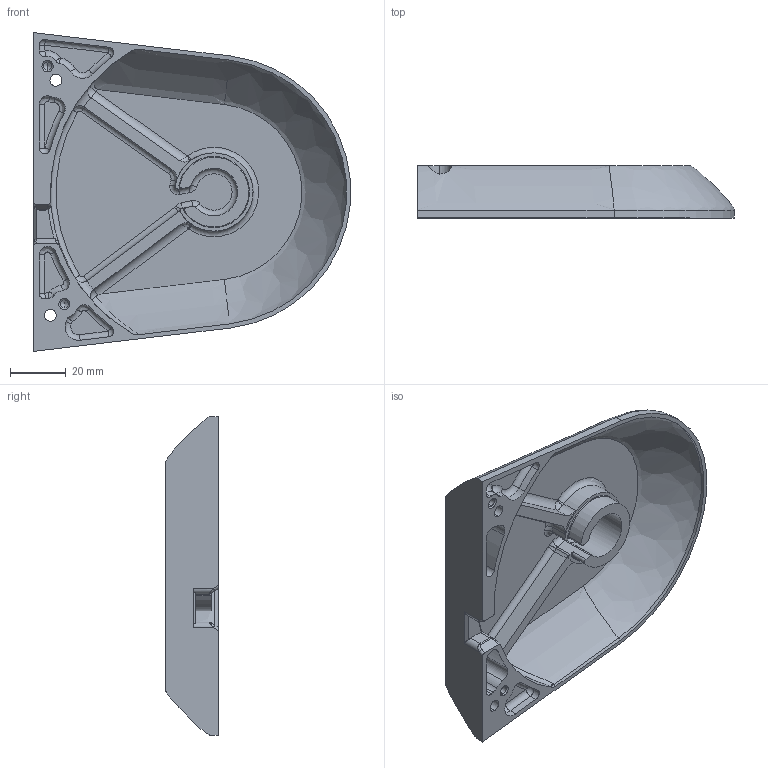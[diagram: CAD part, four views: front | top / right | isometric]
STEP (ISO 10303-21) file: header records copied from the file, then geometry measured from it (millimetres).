
FILE_DESCRIPTION((''),'2;1');
FILE_NAME('KD-C-102L_SHLDYOKEIDLE_1','2025-07-12T13:03:03',('Administrator'),(''),'CREO PARAMETRIC BY PTC INC, 2022073','CREO PARAMETRIC BY PTC INC, 2022073','');
FILE_SCHEMA(('CONFIG_CONTROL_DESIGN'));
Length unit declared in the file: millimetre
Products named in the file (1): KD-C-102L_SHLDYOKEIDLE_1
Bounding box: 113.32 x 18.75 x 114 mm (x, y, z)
Volume: 44126 mm3; surface area: 34682.1 mm2
Topology: 1 solids, 1 shells, 193 faces, 553 edges, 352 vertices
Faces by surface type: cylinder 79, plane 36, torus 27, bspline 23, cone 13, sphere 9, extrusion 4, revolution 2
Entity records: 8087 total; most frequent: CARTESIAN_POINT 3006, DIRECTION 1114, ORIENTED_EDGE 1074, EDGE_CURVE 537, AXIS2_PLACEMENT_3D 470, VERTEX_POINT 352, CIRCLE 306, EDGE_LOOP 203
